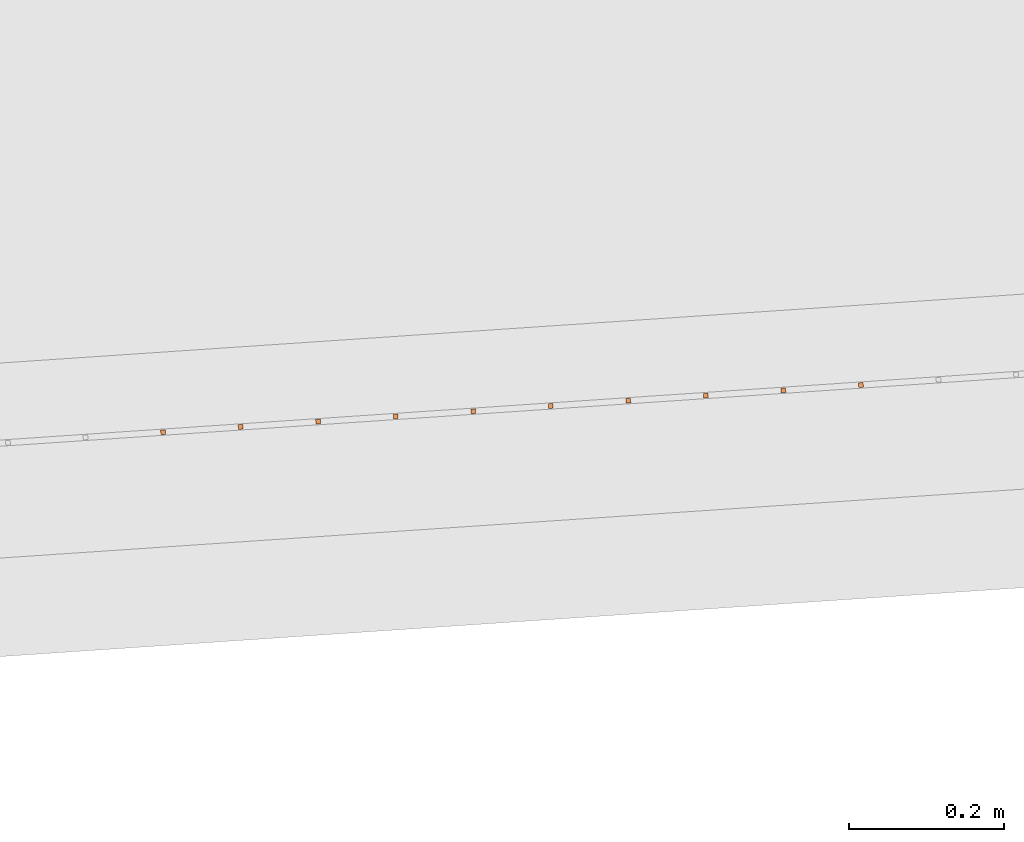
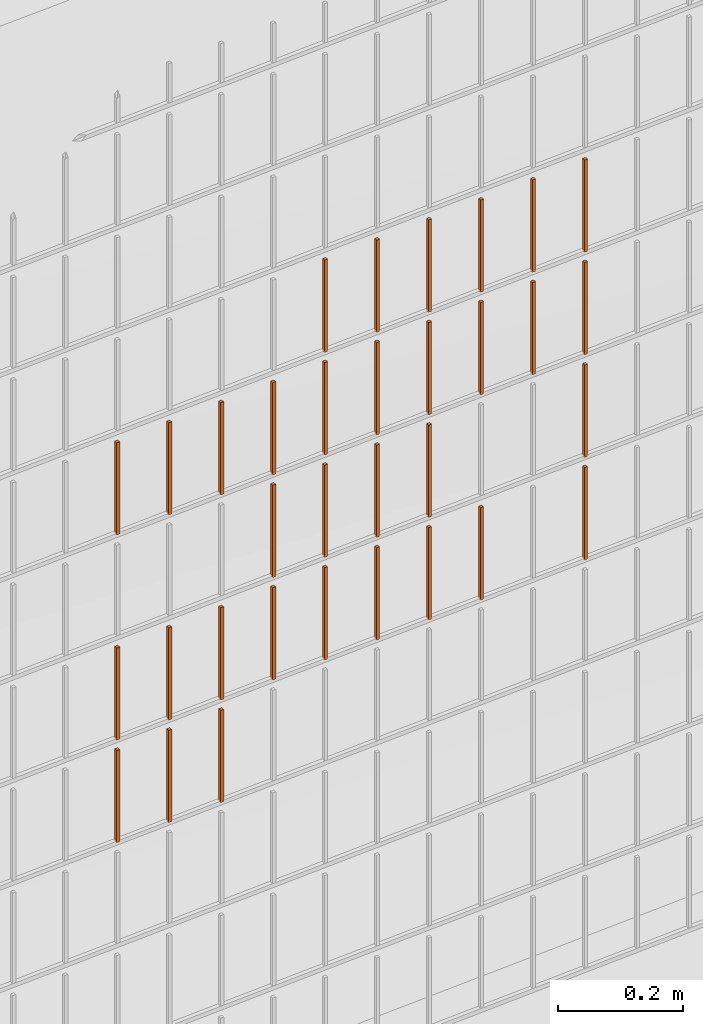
# One storey, part 384 of 1809: 33 proxies, 1 element without a shape of its own.
"""IFC2X3 building model written with IfcOpenShell, lengths in millimetres."""

from ifc_helpers import new_model, entity, si_unit, converted_unit, derived_unit, money_unit, direction, frame, origin_with_axes, place, context, subcontext, project, spatial, faceted_brep, source, transform, mapped, material, type_object, element, aggregate, save


model = new_model("IFC2X3")

# Units and contexts
model_context = context("Model", 3, precision=0.01, world=origin_with_axes(), true_north=direction((0.0, 1.0)))
body_context = subcontext(model_context, "Body", "Model", "MODEL_VIEW")
ifc_project = project(units=[si_unit("LENGTHUNIT", "METRE", prefix="MILLI"), si_unit("AREAUNIT", "SQUARE_METRE"), si_unit("VOLUMEUNIT", "CUBIC_METRE"), converted_unit("PLANEANGLEUNIT", "DEGREE", entity("IfcPlaneAngleMeasure", 0.0174532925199), si_unit("PLANEANGLEUNIT", "RADIAN"), dimensions=[0, 0, 0, 0, 0, 0, 0]), si_unit("SOLIDANGLEUNIT", "STERADIAN"), money_unit("EUR"), converted_unit("TIMEUNIT", "Year", entity("IfcTimeMeasure", 31556926.0), si_unit("TIMEUNIT", "SECOND"), dimensions=[0, 0, 1, 0, 0, 0, 0]), si_unit("MASSUNIT", "GRAM", prefix="KILO"), si_unit("THERMODYNAMICTEMPERATUREUNIT", "DEGREE_CELSIUS"), si_unit("LUMINOUSINTENSITYUNIT", "LUMEN"), si_unit("ENERGYUNIT", "JOULE", prefix="MEGA"), derived_unit("THERMALCONDUCTANCEUNIT", [(si_unit("POWERUNIT", "WATT"), 1), (si_unit("LENGTHUNIT", "METRE"), -1), (si_unit("THERMODYNAMICTEMPERATUREUNIT", "KELVIN"), -1)]), derived_unit("SPECIFICHEATCAPACITYUNIT", [(si_unit("ENERGYUNIT", "JOULE"), 1), (si_unit("MASSUNIT", "GRAM", prefix="KILO"), -1), (si_unit("THERMODYNAMICTEMPERATUREUNIT", "KELVIN"), -1)]), derived_unit("MASSDENSITYUNIT", [(si_unit("MASSUNIT", "GRAM", prefix="KILO"), 1), (si_unit("VOLUMEUNIT", "CUBIC_METRE"), -1)])], contexts=[model_context])

# Site, building, storey
site_placement = place(None, origin_with_axes())
site = spatial("IfcSite", under=ifc_project, at=site_placement, Name="Politse- ja Piirivalveameti ning Päästeameti ühishoone", CompositionType="ELEMENT")
building_placement = place(site_placement, origin_with_axes())
building = spatial("IfcBuilding", under=site, at=building_placement, Name="Politse- ja Piirivalveameti ning Päästeameti ühishoone", CompositionType="ELEMENT")
storey_placement = place(building_placement, origin_with_axes())
storey = spatial("IfcBuildingStorey", under=building, at=storey_placement, Name="Esimene korrus", CompositionType="ELEMENT", Elevation=0.0)

# Proxies
building_element_proxy_type_1 = type_object("IfcBuildingElementProxyType", Name="Railing Type", PredefinedType="NOTDEFINED")
proxy_1_placement = place(storey_placement, frame((89252.001212, -29183.4766571, 203.661247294), z_axis=(0.0, 0.0, 1.0), x_axis=(1.0, 0.0, 0.0)))
proxy_1 = element("IfcBuildingElementProxy", 1, at=proxy_1_placement, inside=storey, type_object=building_element_proxy_type_1, Name="PIIRDEAED")
ifc_material = material(Name="ET-03_Raud")
building_element_proxy_type_2 = type_object("IfcBuildingElementProxyType", Name="IfcBuildingElementProxy", PredefinedType="NOTDEFINED")
shared_shape_1 = source(origin_with_axes(), body_context, "Body", "Brep", [
    faceted_brep([(3.0, 3.0, -0.000752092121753), (-3.0, 3.0, -0.000752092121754), (-3.0, 3.0, 179.99926046), (3.0, 3.0, 179.99926046), (3.0, -3.0, 0.000752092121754), (-3.0, -3.0, 0.000752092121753), (-3.0, -3.0, 180.000764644), (3.0, -3.0, 180.000764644)], [[[0, 1, 2, 3]], [[0, 4, 5, 1]], [[1, 5, 6, 2]], [[3, 2, 6, 7]], [[4, 0, 3, 7]], [[5, 4, 7, 6]]]),
])
proxy_2_placement = place(proxy_1_placement, frame((-15192.0705547, -18323.9417948, 1423.41709482), z_axis=(0.0, 0.0, 1.0), x_axis=(1.0, 0.0, 0.0)))
proxy_2 = element("IfcBuildingElementProxy", 2, at=proxy_2_placement, type_object=building_element_proxy_type_2, material=ifc_material, Name="BALUSTER - 001", context=body_context, shape_type="MappedRepresentation", body=[
    mapped(shared_shape_1, transform((0.0, 0.0, 0.0), x_axis=(-0.0673926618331, 0.997726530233, 0.0), y_axis=(-0.997726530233, -0.0673926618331, 0.0), z_axis=(0.0, 0.0, 1.0))),
])
shared_shape_2 = source(origin_with_axes(), body_context, "Body", "Brep", [
    faceted_brep([(3.0, 3.0, -0.000752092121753), (-3.0, 3.0, -0.000752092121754), (-3.0, 3.0, 179.99926046), (3.0, 3.0, 179.99926046), (3.0, -3.0, 0.000752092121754), (-3.0, -3.0, 0.000752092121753), (-3.0, -3.0, 180.000764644), (3.0, -3.0, 180.000764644)], [[[0, 1, 2, 3]], [[0, 4, 5, 1]], [[1, 5, 6, 2]], [[3, 2, 6, 7]], [[4, 0, 3, 7]], [[5, 4, 7, 6]]]),
])
proxy_3_placement = place(proxy_1_placement, frame((-16090.0244319, -18384.5951904, 623.191467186), z_axis=(0.0, 0.0, 1.0), x_axis=(1.0, 0.0, 0.0)))
proxy_3 = element("IfcBuildingElementProxy", 3, at=proxy_3_placement, type_object=building_element_proxy_type_2, material=ifc_material, Name="BALUSTER - 001", context=body_context, shape_type="MappedRepresentation", body=[
    mapped(shared_shape_2, transform((0.0, 0.0, 0.0), x_axis=(-0.0673926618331, 0.997726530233, 0.0), y_axis=(-0.997726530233, -0.0673926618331, 0.0), z_axis=(0.0, 0.0, 1.0))),
])
shared_shape_3 = source(origin_with_axes(), body_context, "Body", "Brep", [
    faceted_brep([(3.0, 3.0, -0.000752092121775), (-3.0, 3.0, -0.000752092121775), (-3.0, 3.0, 179.99926046), (3.0, 3.0, 179.99926046), (3.0, -3.0, 0.000752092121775), (-3.0, -3.0, 0.000752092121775), (-3.0, -3.0, 180.000764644), (3.0, -3.0, 180.000764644)], [[[0, 1, 2, 3]], [[0, 4, 5, 1]], [[1, 5, 6, 2]], [[3, 2, 6, 7]], [[4, 0, 3, 7]], [[5, 4, 7, 6]]]),
])
proxy_4_placement = place(proxy_1_placement, frame((-15690.9338198, -18357.6381257, 823.291746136), z_axis=(0.0, 0.0, 1.0), x_axis=(1.0, 0.0, 0.0)))
proxy_4 = element("IfcBuildingElementProxy", 4, at=proxy_4_placement, type_object=building_element_proxy_type_2, material=ifc_material, Name="BALUSTER - 001", context=body_context, shape_type="MappedRepresentation", body=[
    mapped(shared_shape_3, transform((0.0, 0.0, 0.0), x_axis=(-0.0673926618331, 0.997726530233, 0.0), y_axis=(-0.997726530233, -0.0673926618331, 0.0), z_axis=(0.0, 0.0, 1.0))),
])
proxy_5_placement = place(proxy_1_placement, frame((-15690.9338198, -18357.6381257, 1223.29174614), z_axis=(0.0, 0.0, 1.0), x_axis=(1.0, 0.0, 0.0)))
proxy_5 = element("IfcBuildingElementProxy", 5, at=proxy_5_placement, type_object=building_element_proxy_type_2, material=ifc_material, Name="BALUSTER - 001", context=body_context, shape_type="MappedRepresentation", body=[
    mapped(shared_shape_3, transform((0.0, 0.0, 0.0), x_axis=(-0.0673926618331, 0.997726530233, 0.0), y_axis=(-0.997726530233, -0.0673926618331, 0.0), z_axis=(0.0, 0.0, 1.0))),
])
proxy_6_placement = place(proxy_1_placement, frame((-15890.4791259, -18371.1166581, 1223.24160666), z_axis=(0.0, 0.0, 1.0), x_axis=(1.0, 0.0, 0.0)))
proxy_6 = element("IfcBuildingElementProxy", 6, at=proxy_6_placement, type_object=building_element_proxy_type_2, material=ifc_material, Name="BALUSTER - 001", context=body_context, shape_type="MappedRepresentation", body=[
    mapped(shared_shape_3, transform((0.0, 0.0, 0.0), x_axis=(-0.0673926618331, 0.997726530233, 0.0), y_axis=(-0.997726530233, -0.0673926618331, 0.0), z_axis=(0.0, 0.0, 1.0))),
])
shared_shape_4 = source(origin_with_axes(), body_context, "Body", "Brep", [
    faceted_brep([(3.0, 3.0, -0.000752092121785), (-3.0, 3.0, -0.000752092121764), (-3.0, 3.0, 179.99926046), (3.0, 3.0, 179.99926046), (3.0, -3.0, 0.000752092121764), (-3.0, -3.0, 0.000752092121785), (-3.0, -3.0, 180.000764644), (3.0, -3.0, 180.000764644)], [[[0, 1, 2, 3]], [[0, 4, 5, 1]], [[1, 5, 6, 2]], [[3, 2, 6, 7]], [[4, 0, 3, 7]], [[5, 4, 7, 6]]]),
])
proxy_7_placement = place(proxy_1_placement, frame((-15890.4791259, -18371.1166581, 623.241606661), z_axis=(0.0, 0.0, 1.0), x_axis=(1.0, 0.0, 0.0)))
proxy_7 = element("IfcBuildingElementProxy", 7, at=proxy_7_placement, type_object=building_element_proxy_type_2, material=ifc_material, Name="BALUSTER - 001", context=body_context, shape_type="MappedRepresentation", body=[
    mapped(shared_shape_4, transform((0.0, 0.0, 0.0), x_axis=(-0.0673926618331, 0.997726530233, 0.0), y_axis=(-0.997726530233, -0.0673926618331, 0.0), z_axis=(0.0, 0.0, 1.0))),
])
shared_shape_5 = source(origin_with_axes(), body_context, "Body", "Brep", [
    faceted_brep([(3.0, 3.0, -0.000752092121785), (-3.0, 3.0, -0.000752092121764), (-3.0, 3.0, 179.99926046), (3.0, 3.0, 179.99926046), (3.0, -3.0, 0.000752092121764), (-3.0, -3.0, 0.000752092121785), (-3.0, -3.0, 180.000764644), (3.0, -3.0, 180.000764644)], [[[0, 1, 2, 3]], [[0, 4, 5, 1]], [[1, 5, 6, 2]], [[3, 2, 6, 7]], [[4, 0, 3, 7]], [[5, 4, 7, 6]]]),
])
proxy_8_placement = place(proxy_1_placement, frame((-15790.7064729, -18364.3773919, 1223.2666764), z_axis=(0.0, 0.0, 1.0), x_axis=(1.0, 0.0, 0.0)))
proxy_8 = element("IfcBuildingElementProxy", 8, at=proxy_8_placement, type_object=building_element_proxy_type_2, material=ifc_material, Name="BALUSTER - 001", context=body_context, shape_type="MappedRepresentation", body=[
    mapped(shared_shape_5, transform((0.0, 0.0, 0.0), x_axis=(-0.0673926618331, 0.997726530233, 0.0), y_axis=(-0.997726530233, -0.0673926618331, 0.0), z_axis=(0.0, 0.0, 1.0))),
])
shared_shape_6 = source(origin_with_axes(), body_context, "Body", "Brep", [
    faceted_brep([(3.0, 3.0, -0.000752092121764), (-3.0, 3.0, -0.000752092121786), (-3.0, 3.0, 179.99926046), (3.0, 3.0, 179.99926046), (3.0, -3.0, 0.000752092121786), (-3.0, -3.0, 0.000752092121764), (-3.0, -3.0, 180.000764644), (3.0, -3.0, 180.000764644)], [[[0, 1, 2, 3]], [[0, 4, 5, 1]], [[1, 5, 6, 2]], [[3, 2, 6, 7]], [[4, 0, 3, 7]], [[5, 4, 7, 6]]]),
])
proxy_9_placement = place(proxy_1_placement, frame((-15990.2517789, -18377.8559242, 823.216536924), z_axis=(0.0, 0.0, 1.0), x_axis=(1.0, 0.0, 0.0)))
proxy_9 = element("IfcBuildingElementProxy", 9, at=proxy_9_placement, type_object=building_element_proxy_type_2, material=ifc_material, Name="BALUSTER - 001", context=body_context, shape_type="MappedRepresentation", body=[
    mapped(shared_shape_6, transform((0.0, 0.0, 0.0), x_axis=(-0.0673926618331, 0.997726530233, 0.0), y_axis=(-0.997726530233, -0.0673926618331, 0.0), z_axis=(0.0, 0.0, 1.0))),
])
shared_shape_7 = source(origin_with_axes(), body_context, "Body", "Brep", [
    faceted_brep([(3.0, 3.0, -0.000752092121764), (-3.0, 3.0, -0.000752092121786), (-3.0, 3.0, 179.99926046), (3.0, 3.0, 179.99926046), (3.0, -3.0, 0.000752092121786), (-3.0, -3.0, 0.000752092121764), (-3.0, -3.0, 180.000764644), (3.0, -3.0, 180.000764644)], [[[0, 1, 2, 3]], [[0, 4, 5, 1]], [[1, 5, 6, 2]], [[3, 2, 6, 7]], [[4, 0, 3, 7]], [[5, 4, 7, 6]]]),
])
proxy_10_placement = place(proxy_1_placement, frame((-15491.3885138, -18344.1595933, 1223.34188561), z_axis=(0.0, 0.0, 1.0), x_axis=(1.0, 0.0, 0.0)))
proxy_10 = element("IfcBuildingElementProxy", 10, at=proxy_10_placement, type_object=building_element_proxy_type_2, material=ifc_material, Name="BALUSTER - 001", context=body_context, shape_type="MappedRepresentation", body=[
    mapped(shared_shape_7, transform((0.0, 0.0, 0.0), x_axis=(-0.0673926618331, 0.997726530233, 0.0), y_axis=(-0.997726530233, -0.0673926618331, 0.0), z_axis=(0.0, 0.0, 1.0))),
])
shared_shape_8 = source(origin_with_axes(), body_context, "Body", "Brep", [
    faceted_brep([(3.0, 3.0, -0.000752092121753), (-3.0, 3.0, -0.000752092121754), (-3.0, 3.0, 179.99926046), (3.0, 3.0, 179.99926046), (3.0, -3.0, 0.000752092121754), (-3.0, -3.0, 0.000752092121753), (-3.0, -3.0, 180.000764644), (3.0, -3.0, 180.000764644)], [[[0, 1, 2, 3]], [[0, 4, 5, 1]], [[1, 5, 6, 2]], [[3, 2, 6, 7]], [[4, 0, 3, 7]], [[5, 4, 7, 6]]]),
])
proxy_11_placement = place(proxy_1_placement, frame((-15192.0705547, -18323.9417948, 823.417094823), z_axis=(0.0, 0.0, 1.0), x_axis=(1.0, 0.0, 0.0)))
proxy_11 = element("IfcBuildingElementProxy", 11, at=proxy_11_placement, type_object=building_element_proxy_type_2, material=ifc_material, Name="BALUSTER - 001", context=body_context, shape_type="MappedRepresentation", body=[
    mapped(shared_shape_8, transform((0.0, 0.0, 0.0), x_axis=(-0.0673926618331, 0.997726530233, 0.0), y_axis=(-0.997726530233, -0.0673926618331, 0.0), z_axis=(0.0, 0.0, 1.0))),
])
proxy_12_placement = place(proxy_1_placement, frame((-15192.0705547, -18323.9417948, 1223.41709482), z_axis=(0.0, 0.0, 1.0), x_axis=(1.0, 0.0, 0.0)))
proxy_12 = element("IfcBuildingElementProxy", 12, at=proxy_12_placement, type_object=building_element_proxy_type_2, material=ifc_material, Name="BALUSTER - 001", context=body_context, shape_type="MappedRepresentation", body=[
    mapped(shared_shape_8, transform((0.0, 0.0, 0.0), x_axis=(-0.0673926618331, 0.997726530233, 0.0), y_axis=(-0.997726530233, -0.0673926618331, 0.0), z_axis=(0.0, 0.0, 1.0))),
])
shared_shape_9 = source(origin_with_axes(), body_context, "Body", "Brep", [
    faceted_brep([(3.0, 3.0, -0.000752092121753), (-3.0, 3.0, -0.000752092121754), (-3.0, 3.0, 179.99926046), (3.0, 3.0, 179.99926046), (3.0, -3.0, 0.000752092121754), (-3.0, -3.0, 0.000752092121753), (-3.0, -3.0, 180.000764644), (3.0, -3.0, 180.000764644)], [[[0, 1, 2, 3]], [[0, 4, 5, 1]], [[1, 5, 6, 2]], [[3, 2, 6, 7]], [[4, 0, 3, 7]], [[5, 4, 7, 6]]]),
])
proxy_13_placement = place(proxy_1_placement, frame((-16090.0244319, -18384.5951904, 1223.19146719), z_axis=(0.0, 0.0, 1.0), x_axis=(1.0, 0.0, 0.0)))
proxy_13 = element("IfcBuildingElementProxy", 13, at=proxy_13_placement, type_object=building_element_proxy_type_2, material=ifc_material, Name="BALUSTER - 001", context=body_context, shape_type="MappedRepresentation", body=[
    mapped(shared_shape_9, transform((0.0, 0.0, 0.0), x_axis=(-0.0673926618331, 0.997726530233, 0.0), y_axis=(-0.997726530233, -0.0673926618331, 0.0), z_axis=(0.0, 0.0, 1.0))),
])
shared_shape_10 = source(origin_with_axes(), body_context, "Body", "Brep", [
    faceted_brep([(3.0, 3.0, -0.000752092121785), (-3.0, 3.0, -0.000752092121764), (-3.0, 3.0, 179.99926046), (3.0, 3.0, 179.99926046), (3.0, -3.0, 0.000752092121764), (-3.0, -3.0, 0.000752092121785), (-3.0, -3.0, 180.000764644), (3.0, -3.0, 180.000764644)], [[[0, 1, 2, 3]], [[0, 4, 5, 1]], [[1, 5, 6, 2]], [[3, 2, 6, 7]], [[4, 0, 3, 7]], [[5, 4, 7, 6]]]),
])
proxy_14_placement = place(proxy_1_placement, frame((-15890.4791259, -18371.1166581, 823.241606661), z_axis=(0.0, 0.0, 1.0), x_axis=(1.0, 0.0, 0.0)))
proxy_14 = element("IfcBuildingElementProxy", 14, at=proxy_14_placement, type_object=building_element_proxy_type_2, material=ifc_material, Name="BALUSTER - 001", context=body_context, shape_type="MappedRepresentation", body=[
    mapped(shared_shape_10, transform((0.0, 0.0, 0.0), x_axis=(-0.0673926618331, 0.997726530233, 0.0), y_axis=(-0.997726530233, -0.0673926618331, 0.0), z_axis=(0.0, 0.0, 1.0))),
])
shared_shape_11 = source(origin_with_axes(), body_context, "Body", "Brep", [
    faceted_brep([(3.0, 3.0, -0.000752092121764), (-3.0, 3.0, -0.000752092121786), (-3.0, 3.0, 179.99926046), (3.0, 3.0, 179.99926046), (3.0, -3.0, 0.000752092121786), (-3.0, -3.0, 0.000752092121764), (-3.0, -3.0, 180.000764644), (3.0, -3.0, 180.000764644)], [[[0, 1, 2, 3]], [[0, 4, 5, 1]], [[1, 5, 6, 2]], [[3, 2, 6, 7]], [[4, 0, 3, 7]], [[5, 4, 7, 6]]]),
])
proxy_15_placement = place(proxy_1_placement, frame((-15391.6158608, -18337.4203271, 1223.36695535), z_axis=(0.0, 0.0, 1.0), x_axis=(1.0, 0.0, 0.0)))
proxy_15 = element("IfcBuildingElementProxy", 15, at=proxy_15_placement, type_object=building_element_proxy_type_2, material=ifc_material, Name="BALUSTER - 001", context=body_context, shape_type="MappedRepresentation", body=[
    mapped(shared_shape_11, transform((0.0, 0.0, 0.0), x_axis=(-0.0673926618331, 0.997726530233, 0.0), y_axis=(-0.997726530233, -0.0673926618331, 0.0), z_axis=(0.0, 0.0, 1.0))),
])
shared_shape_12 = source(origin_with_axes(), body_context, "Body", "Brep", [
    faceted_brep([(3.0, 3.0, -0.000752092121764), (-3.0, 3.0, -0.000752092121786), (-3.0, 3.0, 179.99926046), (3.0, 3.0, 179.99926046), (3.0, -3.0, 0.000752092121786), (-3.0, -3.0, 0.000752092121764), (-3.0, -3.0, 180.000764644), (3.0, -3.0, 180.000764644)], [[[0, 1, 2, 3]], [[0, 4, 5, 1]], [[1, 5, 6, 2]], [[3, 2, 6, 7]], [[4, 0, 3, 7]], [[5, 4, 7, 6]]]),
])
proxy_16_placement = place(proxy_1_placement, frame((-15990.2517789, -18377.8559242, 623.216536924), z_axis=(0.0, 0.0, 1.0), x_axis=(1.0, 0.0, 0.0)))
proxy_16 = element("IfcBuildingElementProxy", 16, at=proxy_16_placement, type_object=building_element_proxy_type_2, material=ifc_material, Name="BALUSTER - 001", context=body_context, shape_type="MappedRepresentation", body=[
    mapped(shared_shape_12, transform((0.0, 0.0, 0.0), x_axis=(-0.0673926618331, 0.997726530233, 0.0), y_axis=(-0.997726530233, -0.0673926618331, 0.0), z_axis=(0.0, 0.0, 1.0))),
])
proxy_17_placement = place(proxy_1_placement, frame((-15391.6158608, -18337.4203271, 823.366955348), z_axis=(0.0, 0.0, 1.0), x_axis=(1.0, 0.0, 0.0)))
proxy_17 = element("IfcBuildingElementProxy", 17, at=proxy_17_placement, type_object=building_element_proxy_type_2, material=ifc_material, Name="BALUSTER - 001", context=body_context, shape_type="MappedRepresentation", body=[
    mapped(shared_shape_12, transform((0.0, 0.0, 0.0), x_axis=(-0.0673926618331, 0.997726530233, 0.0), y_axis=(-0.997726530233, -0.0673926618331, 0.0), z_axis=(0.0, 0.0, 1.0))),
])
shared_shape_13 = source(origin_with_axes(), body_context, "Body", "Brep", [
    faceted_brep([(3.0, 3.0, -0.000752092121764), (-3.0, 3.0, -0.000752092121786), (-3.0, 3.0, 179.99926046), (3.0, 3.0, 179.99926046), (3.0, -3.0, 0.000752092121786), (-3.0, -3.0, 0.000752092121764), (-3.0, -3.0, 180.000764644), (3.0, -3.0, 180.000764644)], [[[0, 1, 2, 3]], [[0, 4, 5, 1]], [[1, 5, 6, 2]], [[3, 2, 6, 7]], [[4, 0, 3, 7]], [[5, 4, 7, 6]]]),
])
proxy_18_placement = place(proxy_1_placement, frame((-15591.1611668, -18350.8988595, 1223.31681587), z_axis=(0.0, 0.0, 1.0), x_axis=(1.0, 0.0, 0.0)))
proxy_18 = element("IfcBuildingElementProxy", 18, at=proxy_18_placement, type_object=building_element_proxy_type_2, material=ifc_material, Name="BALUSTER - 001", context=body_context, shape_type="MappedRepresentation", body=[
    mapped(shared_shape_13, transform((0.0, 0.0, 0.0), x_axis=(-0.0673926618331, 0.997726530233, 0.0), y_axis=(-0.997726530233, -0.0673926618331, 0.0), z_axis=(0.0, 0.0, 1.0))),
])
shared_shape_14 = source(origin_with_axes(), body_context, "Body", "Brep", [
    faceted_brep([(3.0, 3.0, -0.000752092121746), (-3.0, 3.0, -0.000752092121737), (-3.00000000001, 2.99999999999, 179.99926046), (2.99999999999, 2.99999999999, 179.99926046), (3.0, -3.0, 0.000752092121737), (-3.0, -3.0, 0.000752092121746), (-3.00000000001, -3.00000000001, 180.000764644), (2.99999999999, -3.00000000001, 180.000764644)], [[[0, 1, 2, 3]], [[0, 4, 5, 1]], [[1, 5, 6, 2]], [[3, 2, 6, 7]], [[4, 0, 3, 7]], [[5, 4, 7, 6]]]),
])
proxy_19_placement = place(proxy_1_placement, frame((-15790.7064729, -18364.3773919, 1023.2666764), z_axis=(0.0, 0.0, 1.0), x_axis=(1.0, 0.0, 0.0)))
proxy_19 = element("IfcBuildingElementProxy", 19, at=proxy_19_placement, type_object=building_element_proxy_type_2, material=ifc_material, Name="BALUSTER - 001", context=body_context, shape_type="MappedRepresentation", body=[
    mapped(shared_shape_14, transform((0.0, 0.0, 0.0), x_axis=(-0.0673926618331, 0.997726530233, 0.0), y_axis=(-0.997726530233, -0.0673926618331, 0.0), z_axis=(0.0, 0.0, 1.0))),
])
shared_shape_15 = source(origin_with_axes(), body_context, "Body", "Brep", [
    faceted_brep([(3.0, 3.0, -0.000752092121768), (-3.0, 3.0, -0.000752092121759), (-3.00000000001, 2.99999999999, 179.99926046), (2.99999999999, 2.99999999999, 179.99926046), (3.0, -3.0, 0.000752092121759), (-3.0, -3.0, 0.000752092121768), (-3.00000000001, -3.00000000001, 180.000764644), (2.99999999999, -3.00000000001, 180.000764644)], [[[0, 1, 2, 3]], [[0, 4, 5, 1]], [[1, 5, 6, 2]], [[3, 2, 6, 7]], [[4, 0, 3, 7]], [[5, 4, 7, 6]]]),
])
proxy_20_placement = place(proxy_1_placement, frame((-15491.3885138, -18344.1595933, 1023.34188561), z_axis=(0.0, 0.0, 1.0), x_axis=(1.0, 0.0, 0.0)))
proxy_20 = element("IfcBuildingElementProxy", 20, at=proxy_20_placement, type_object=building_element_proxy_type_2, material=ifc_material, Name="BALUSTER - 001", context=body_context, shape_type="MappedRepresentation", body=[
    mapped(shared_shape_15, transform((0.0, 0.0, 0.0), x_axis=(-0.0673926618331, 0.997726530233, 0.0), y_axis=(-0.997726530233, -0.0673926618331, 0.0), z_axis=(0.0, 0.0, 1.0))),
])
shared_shape_16 = source(origin_with_axes(), body_context, "Body", "Brep", [
    faceted_brep([(3.0, 3.0, -0.000752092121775), (-3.0, 3.0, -0.000752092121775), (-3.0, 3.0, 179.99926046), (3.0, 3.0, 179.99926046), (3.0, -3.0, 0.000752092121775), (-3.0, -3.0, 0.000752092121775), (-3.0, -3.0, 180.000764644), (3.0, -3.0, 180.000764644)], [[[0, 1, 2, 3]], [[0, 4, 5, 1]], [[1, 5, 6, 2]], [[3, 2, 6, 7]], [[4, 0, 3, 7]], [[5, 4, 7, 6]]]),
])
proxy_21_placement = place(proxy_1_placement, frame((-15591.1611668, -18350.8988595, 823.316815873), z_axis=(0.0, 0.0, 1.0), x_axis=(1.0, 0.0, 0.0)))
proxy_21 = element("IfcBuildingElementProxy", 21, at=proxy_21_placement, type_object=building_element_proxy_type_2, material=ifc_material, Name="BALUSTER - 001", context=body_context, shape_type="MappedRepresentation", body=[
    mapped(shared_shape_16, transform((0.0, 0.0, 0.0), x_axis=(-0.0673926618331, 0.997726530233, 0.0), y_axis=(-0.997726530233, -0.0673926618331, 0.0), z_axis=(0.0, 0.0, 1.0))),
])
proxy_22_placement = place(proxy_1_placement, frame((-15291.8432077, -18330.681061, 1223.39202509), z_axis=(0.0, 0.0, 1.0), x_axis=(1.0, 0.0, 0.0)))
proxy_22 = element("IfcBuildingElementProxy", 22, at=proxy_22_placement, type_object=building_element_proxy_type_2, material=ifc_material, Name="BALUSTER - 001", context=body_context, shape_type="MappedRepresentation", body=[
    mapped(shared_shape_16, transform((0.0, 0.0, 0.0), x_axis=(-0.0673926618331, 0.997726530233, 0.0), y_axis=(-0.997726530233, -0.0673926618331, 0.0), z_axis=(0.0, 0.0, 1.0))),
])
shared_shape_17 = source(origin_with_axes(), body_context, "Body", "Brep", [
    faceted_brep([(3.0, 3.0, -0.000752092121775), (-3.0, 3.0, -0.000752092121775), (-3.0, 3.0, 179.99926046), (3.0, 3.0, 179.99926046), (3.0, -3.0, 0.000752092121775), (-3.0, -3.0, 0.000752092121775), (-3.0, -3.0, 180.000764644), (3.0, -3.0, 180.000764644)], [[[0, 1, 2, 3]], [[0, 4, 5, 1]], [[1, 5, 6, 2]], [[3, 2, 6, 7]], [[4, 0, 3, 7]], [[5, 4, 7, 6]]]),
])
proxy_23_placement = place(proxy_1_placement, frame((-15291.8432077, -18330.681061, 1423.39202509), z_axis=(0.0, 0.0, 1.0), x_axis=(1.0, 0.0, 0.0)))
proxy_23 = element("IfcBuildingElementProxy", 23, at=proxy_23_placement, type_object=building_element_proxy_type_2, material=ifc_material, Name="BALUSTER - 001", context=body_context, shape_type="MappedRepresentation", body=[
    mapped(shared_shape_17, transform((0.0, 0.0, 0.0), x_axis=(-0.0673926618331, 0.997726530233, 0.0), y_axis=(-0.997726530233, -0.0673926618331, 0.0), z_axis=(0.0, 0.0, 1.0))),
])
shared_shape_18 = source(origin_with_axes(), body_context, "Body", "Brep", [
    faceted_brep([(3.0, 3.0, -0.000752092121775), (-3.0, 3.0, -0.000752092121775), (-3.0, 3.0, 179.99926046), (3.0, 3.0, 179.99926046), (3.0, -3.0, 0.000752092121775), (-3.0, -3.0, 0.000752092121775), (-3.0, -3.0, 180.000764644), (3.0, -3.0, 180.000764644)], [[[0, 1, 2, 3]], [[0, 4, 5, 1]], [[1, 5, 6, 2]], [[3, 2, 6, 7]], [[4, 0, 3, 7]], [[5, 4, 7, 6]]]),
])
proxy_24_placement = place(proxy_1_placement, frame((-15690.9338198, -18357.6381257, 1423.29174614), z_axis=(0.0, 0.0, 1.0), x_axis=(1.0, 0.0, 0.0)))
proxy_24 = element("IfcBuildingElementProxy", 24, at=proxy_24_placement, type_object=building_element_proxy_type_2, material=ifc_material, Name="BALUSTER - 001", context=body_context, shape_type="MappedRepresentation", body=[
    mapped(shared_shape_18, transform((0.0, 0.0, 0.0), x_axis=(-0.0673926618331, 0.997726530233, 0.0), y_axis=(-0.997726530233, -0.0673926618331, 0.0), z_axis=(0.0, 0.0, 1.0))),
])
shared_shape_19 = source(origin_with_axes(), body_context, "Body", "Brep", [
    faceted_brep([(3.0, 3.0, -0.000752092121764), (-3.0, 3.0, -0.000752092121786), (-3.0, 3.0, 179.99926046), (3.0, 3.0, 179.99926046), (3.0, -3.0, 0.000752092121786), (-3.0, -3.0, 0.000752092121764), (-3.0, -3.0, 180.000764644), (3.0, -3.0, 180.000764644)], [[[0, 1, 2, 3]], [[0, 4, 5, 1]], [[1, 5, 6, 2]], [[3, 2, 6, 7]], [[4, 0, 3, 7]], [[5, 4, 7, 6]]]),
])
proxy_25_placement = place(proxy_1_placement, frame((-15391.6158608, -18337.4203271, 1423.36695535), z_axis=(0.0, 0.0, 1.0), x_axis=(1.0, 0.0, 0.0)))
proxy_25 = element("IfcBuildingElementProxy", 25, at=proxy_25_placement, type_object=building_element_proxy_type_2, material=ifc_material, Name="BALUSTER - 001", context=body_context, shape_type="MappedRepresentation", body=[
    mapped(shared_shape_19, transform((0.0, 0.0, 0.0), x_axis=(-0.0673926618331, 0.997726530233, 0.0), y_axis=(-0.997726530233, -0.0673926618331, 0.0), z_axis=(0.0, 0.0, 1.0))),
])
shared_shape_20 = source(origin_with_axes(), body_context, "Body", "Brep", [
    faceted_brep([(3.0, 3.0, -0.000752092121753), (-3.0, 3.0, -0.000752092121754), (-3.0, 3.0, 179.99926046), (3.0, 3.0, 179.99926046), (3.0, -3.0, 0.000752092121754), (-3.0, -3.0, 0.000752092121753), (-3.0, -3.0, 180.000764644), (3.0, -3.0, 180.000764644)], [[[0, 1, 2, 3]], [[0, 4, 5, 1]], [[1, 5, 6, 2]], [[3, 2, 6, 7]], [[4, 0, 3, 7]], [[5, 4, 7, 6]]]),
])
proxy_26_placement = place(proxy_1_placement, frame((-16090.0244319, -18384.5951904, 823.191467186), z_axis=(0.0, 0.0, 1.0), x_axis=(1.0, 0.0, 0.0)))
proxy_26 = element("IfcBuildingElementProxy", 26, at=proxy_26_placement, type_object=building_element_proxy_type_2, material=ifc_material, Name="BALUSTER - 001", context=body_context, shape_type="MappedRepresentation", body=[
    mapped(shared_shape_20, transform((0.0, 0.0, 0.0), x_axis=(-0.0673926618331, 0.997726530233, 0.0), y_axis=(-0.997726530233, -0.0673926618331, 0.0), z_axis=(0.0, 0.0, 1.0))),
])
shared_shape_21 = source(origin_with_axes(), body_context, "Body", "Brep", [
    faceted_brep([(3.0, 3.0, -0.000752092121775), (-3.0, 3.0, -0.000752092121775), (-3.0, 3.0, 179.99926046), (3.0, 3.0, 179.99926046), (3.0, -3.0, 0.000752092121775), (-3.0, -3.0, 0.000752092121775), (-3.0, -3.0, 180.000764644), (3.0, -3.0, 180.000764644)], [[[0, 1, 2, 3]], [[0, 4, 5, 1]], [[1, 5, 6, 2]], [[3, 2, 6, 7]], [[4, 0, 3, 7]], [[5, 4, 7, 6]]]),
])
proxy_27_placement = place(proxy_1_placement, frame((-15790.7064729, -18364.3773919, 823.266676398), z_axis=(0.0, 0.0, 1.0), x_axis=(1.0, 0.0, 0.0)))
proxy_27 = element("IfcBuildingElementProxy", 27, at=proxy_27_placement, type_object=building_element_proxy_type_2, material=ifc_material, Name="BALUSTER - 001", context=body_context, shape_type="MappedRepresentation", body=[
    mapped(shared_shape_21, transform((0.0, 0.0, 0.0), x_axis=(-0.0673926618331, 0.997726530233, 0.0), y_axis=(-0.997726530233, -0.0673926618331, 0.0), z_axis=(0.0, 0.0, 1.0))),
])
shared_shape_22 = source(origin_with_axes(), body_context, "Body", "Brep", [
    faceted_brep([(3.0, 3.0, -0.000752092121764), (-3.0, 3.0, -0.000752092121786), (-3.0, 3.0, 179.99926046), (3.0, 3.0, 179.99926046), (3.0, -3.0, 0.000752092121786), (-3.0, -3.0, 0.000752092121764), (-3.0, -3.0, 180.000764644), (3.0, -3.0, 180.000764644)], [[[0, 1, 2, 3]], [[0, 4, 5, 1]], [[1, 5, 6, 2]], [[3, 2, 6, 7]], [[4, 0, 3, 7]], [[5, 4, 7, 6]]]),
])
proxy_28_placement = place(proxy_1_placement, frame((-15491.3885138, -18344.1595933, 823.341885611), z_axis=(0.0, 0.0, 1.0), x_axis=(1.0, 0.0, 0.0)))
proxy_28 = element("IfcBuildingElementProxy", 28, at=proxy_28_placement, type_object=building_element_proxy_type_2, material=ifc_material, Name="BALUSTER - 001", context=body_context, shape_type="MappedRepresentation", body=[
    mapped(shared_shape_22, transform((0.0, 0.0, 0.0), x_axis=(-0.0673926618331, 0.997726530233, 0.0), y_axis=(-0.997726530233, -0.0673926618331, 0.0), z_axis=(0.0, 0.0, 1.0))),
])
shared_shape_23 = source(origin_with_axes(), body_context, "Body", "Brep", [
    faceted_brep([(3.0, 3.0, -0.000752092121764), (-3.0, 3.0, -0.000752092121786), (-3.0, 3.0, 179.99926046), (3.0, 3.0, 179.99926046), (3.0, -3.0, 0.000752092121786), (-3.0, -3.0, 0.000752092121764), (-3.0, -3.0, 180.000764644), (3.0, -3.0, 180.000764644)], [[[0, 1, 2, 3]], [[0, 4, 5, 1]], [[1, 5, 6, 2]], [[3, 2, 6, 7]], [[4, 0, 3, 7]], [[5, 4, 7, 6]]]),
])
proxy_29_placement = place(proxy_1_placement, frame((-15491.3885138, -18344.1595933, 1423.34188561), z_axis=(0.0, 0.0, 1.0), x_axis=(1.0, 0.0, 0.0)))
proxy_29 = element("IfcBuildingElementProxy", 29, at=proxy_29_placement, type_object=building_element_proxy_type_2, material=ifc_material, Name="BALUSTER - 001", context=body_context, shape_type="MappedRepresentation", body=[
    mapped(shared_shape_23, transform((0.0, 0.0, 0.0), x_axis=(-0.0673926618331, 0.997726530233, 0.0), y_axis=(-0.997726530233, -0.0673926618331, 0.0), z_axis=(0.0, 0.0, 1.0))),
])
shared_shape_24 = source(origin_with_axes(), body_context, "Body", "Brep", [
    faceted_brep([(3.0, 3.0, -0.000752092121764), (-3.0, 3.0, -0.000752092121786), (-3.0, 3.0, 179.99926046), (3.0, 3.0, 179.99926046), (3.0, -3.0, 0.000752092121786), (-3.0, -3.0, 0.000752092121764), (-3.0, -3.0, 180.000764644), (3.0, -3.0, 180.000764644)], [[[0, 1, 2, 3]], [[0, 4, 5, 1]], [[1, 5, 6, 2]], [[3, 2, 6, 7]], [[4, 0, 3, 7]], [[5, 4, 7, 6]]]),
])
proxy_30_placement = place(proxy_1_placement, frame((-15990.2517789, -18377.8559242, 1223.21653692), z_axis=(0.0, 0.0, 1.0), x_axis=(1.0, 0.0, 0.0)))
proxy_30 = element("IfcBuildingElementProxy", 30, at=proxy_30_placement, type_object=building_element_proxy_type_2, material=ifc_material, Name="BALUSTER - 001", context=body_context, shape_type="MappedRepresentation", body=[
    mapped(shared_shape_24, transform((0.0, 0.0, 0.0), x_axis=(-0.0673926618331, 0.997726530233, 0.0), y_axis=(-0.997726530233, -0.0673926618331, 0.0), z_axis=(0.0, 0.0, 1.0))),
])
shared_shape_25 = source(origin_with_axes(), body_context, "Body", "Brep", [
    faceted_brep([(3.0, 3.0, -0.000752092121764), (-3.0, 3.0, -0.000752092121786), (-3.0, 3.0, 179.99926046), (3.0, 3.0, 179.99926046), (3.0, -3.0, 0.000752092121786), (-3.0, -3.0, 0.000752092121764), (-3.0, -3.0, 180.000764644), (3.0, -3.0, 180.000764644)], [[[0, 1, 2, 3]], [[0, 4, 5, 1]], [[1, 5, 6, 2]], [[3, 2, 6, 7]], [[4, 0, 3, 7]], [[5, 4, 7, 6]]]),
])
proxy_31_placement = place(proxy_1_placement, frame((-15591.1611668, -18350.8988595, 1423.31681587), z_axis=(0.0, 0.0, 1.0), x_axis=(1.0, 0.0, 0.0)))
proxy_31 = element("IfcBuildingElementProxy", 31, at=proxy_31_placement, type_object=building_element_proxy_type_2, material=ifc_material, Name="BALUSTER - 001", context=body_context, shape_type="MappedRepresentation", body=[
    mapped(shared_shape_25, transform((0.0, 0.0, 0.0), x_axis=(-0.0673926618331, 0.997726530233, 0.0), y_axis=(-0.997726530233, -0.0673926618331, 0.0), z_axis=(0.0, 0.0, 1.0))),
])
shared_shape_26 = source(origin_with_axes(), body_context, "Body", "Brep", [
    faceted_brep([(3.0, 3.0, -0.000752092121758), (-3.0, 3.0, -0.000752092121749), (-3.00000000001, 3.0, 179.99926046), (2.99999999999, 3.0, 179.99926046), (3.0, -3.0, 0.000752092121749), (-3.0, -3.0, 0.000752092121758), (-3.00000000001, -3.0, 180.000764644), (2.99999999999, -3.0, 180.000764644)], [[[0, 1, 2, 3]], [[0, 4, 5, 1]], [[1, 5, 6, 2]], [[3, 2, 6, 7]], [[4, 0, 3, 7]], [[5, 4, 7, 6]]]),
])
proxy_32_placement = place(proxy_1_placement, frame((-15192.0705547, -18323.9417948, 1023.41709482), z_axis=(0.0, 0.0, 1.0), x_axis=(1.0, 0.0, 0.0)))
proxy_32 = element("IfcBuildingElementProxy", 32, at=proxy_32_placement, type_object=building_element_proxy_type_2, material=ifc_material, Name="BALUSTER - 001", context=body_context, shape_type="MappedRepresentation", body=[
    mapped(shared_shape_26, transform((0.0, 0.0, 0.0), x_axis=(-0.0673926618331, 0.997726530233, 0.0), y_axis=(-0.997726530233, -0.0673926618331, 0.0), z_axis=(0.0, 0.0, 1.0))),
])
proxy_33_placement = place(proxy_1_placement, frame((-15690.9338198, -18357.6381257, 1023.29174614), z_axis=(0.0, 0.0, 1.0), x_axis=(1.0, 0.0, 0.0)))
proxy_33 = element("IfcBuildingElementProxy", 33, at=proxy_33_placement, type_object=building_element_proxy_type_2, material=ifc_material, Name="BALUSTER - 001", context=body_context, shape_type="MappedRepresentation", body=[
    mapped(shared_shape_26, transform((0.0, 0.0, 0.0), x_axis=(-0.0673926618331, 0.997726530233, 0.0), y_axis=(-0.997726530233, -0.0673926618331, 0.0), z_axis=(0.0, 0.0, 1.0))),
])
shared_shape_27 = source(origin_with_axes(), body_context, "Body", "Brep", [
    faceted_brep([(3.0, 3.0, -0.000752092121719), (-3.0, 3.0, -0.000752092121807), (-3.00000000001, 2.99999999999, 179.99926046), (2.99999999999, 2.99999999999, 179.99926046), (3.0, -3.0, 0.000752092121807), (-3.0, -3.0, 0.000752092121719), (-3.00000000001, -3.00000000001, 180.000764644), (2.99999999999, -3.00000000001, 180.000764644)], [[[0, 1, 2, 3]], [[0, 4, 5, 1]], [[1, 5, 6, 2]], [[3, 2, 6, 7]], [[4, 0, 3, 7]], [[5, 4, 7, 6]]]),
])
proxy_34_placement = place(proxy_1_placement, frame((-15591.1611668, -18350.8988595, 1023.31681587), z_axis=(0.0, 0.0, 1.0), x_axis=(1.0, 0.0, 0.0)))
proxy_34 = element("IfcBuildingElementProxy", 34, at=proxy_34_placement, type_object=building_element_proxy_type_2, material=ifc_material, Name="BALUSTER - 001", context=body_context, shape_type="MappedRepresentation", body=[
    mapped(shared_shape_27, transform((0.0, 0.0, 0.0), x_axis=(-0.0673926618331, 0.997726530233, 0.0), y_axis=(-0.997726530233, -0.0673926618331, 0.0), z_axis=(0.0, 0.0, 1.0))),
])
aggregate(proxy_1, [proxy_7, proxy_16, proxy_3, proxy_11, proxy_17, proxy_28, proxy_21, proxy_4, proxy_27, proxy_14, proxy_9, proxy_26, proxy_32, proxy_20, proxy_34, proxy_33, proxy_19, proxy_12, proxy_22, proxy_15, proxy_10, proxy_18, proxy_5, proxy_8, proxy_6, proxy_30, proxy_13, proxy_2, proxy_23, proxy_25, proxy_29, proxy_31, proxy_24])

save(model, "model.ifc")
